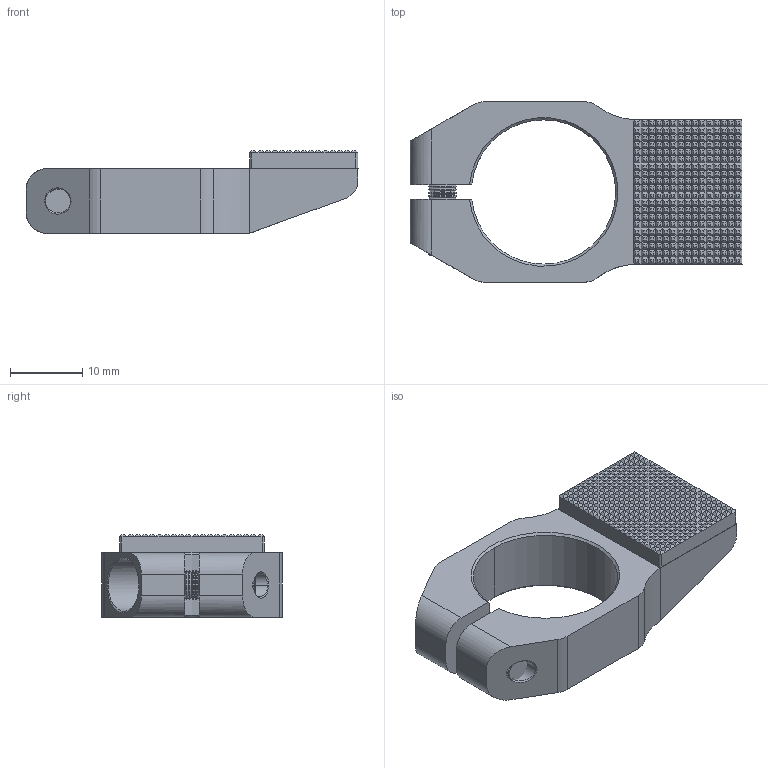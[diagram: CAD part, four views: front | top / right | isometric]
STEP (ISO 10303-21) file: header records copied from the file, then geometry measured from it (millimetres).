
FILE_DESCRIPTION (( 'STEP AP214' ), '1' );
FILE_NAME ('GP3-20.STEP', '2019-11-13T03:25:02', ( '微软用户' ), ( '微软中国' ), 'SwSTEP 2.0', 'SolidWorks 2016', '' );
FILE_SCHEMA (( 'AUTOMOTIVE_DESIGN' ));
Length unit declared in the file: millimetre
Products named in the file (1): GP3-20
Bounding box: 46 x 25 x 11.5 mm (x, y, z)
Volume: 4932 mm3; surface area: 4937.4 mm2
Topology: 3 solids, 3 shells, 2060 faces, 4410 edges, 2365 vertices
Faces by surface type: plane 1632, cylinder 192, cone 120, torus 86, bspline 30
Entity records: 76844 total; most frequent: CARTESIAN_POINT 10882, DIRECTION 8854, ORIENTED_EDGE 8816, EDGE_CURVE 4408, LINE 3584, VECTOR 3584, AXIS2_PLACEMENT_3D 2635, VERTEX_POINT 2365
